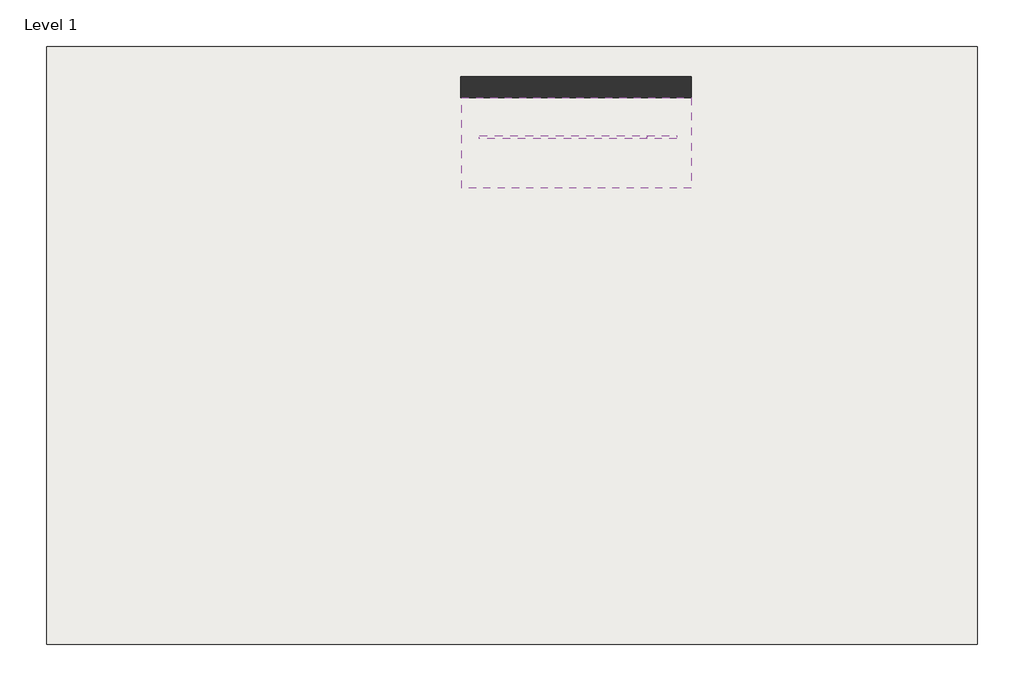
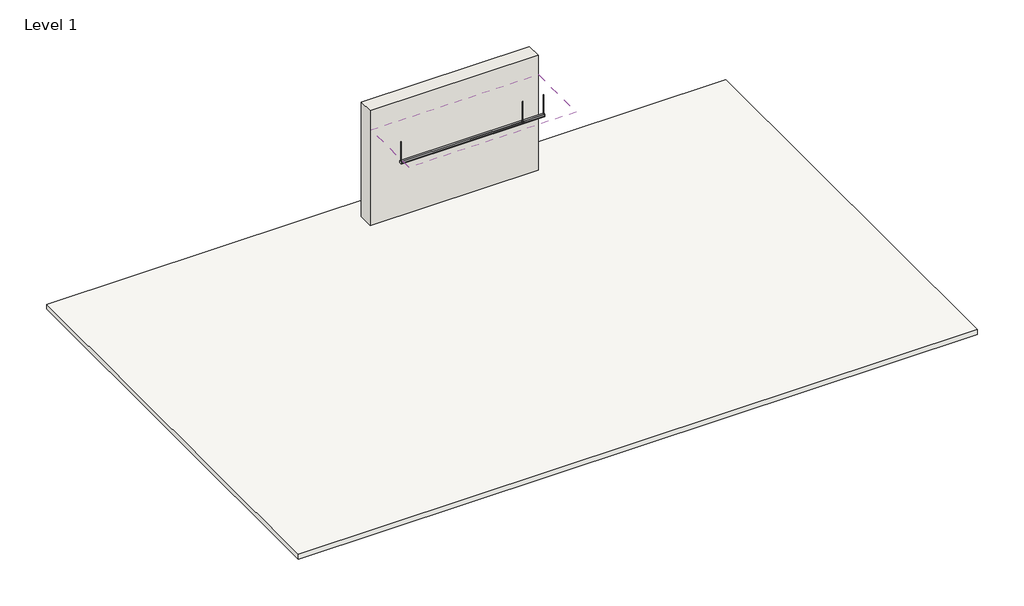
# One storey: 2 light fixtures, 1 covering, 1 slab, 1 wall.
"""IFC4 building model written with IfcOpenShell, lengths in millimetres."""

import ifcopenshell
import ifcopenshell.guid

model = None  # the IFC model being written
_history = None  # IfcOwnerHistory: only IFC2X3 demands one
_inside = {}  # id of a spatial element -> (the spatial element, [elements in it])
_under = {}  # id of a project, library or spatial element -> (it, [spatial elements below it])
_declared = {}  # id of a project -> (the project, [libraries it declares])
_typed = {}  # id of a type object -> (the type object, [elements of that type])
_made_of = {}  # id of a material, layer set ... -> (it, [elements and type objects made of it])


def new_model(schema):
    """Start an empty IFC model of exactly this schema.

    Asked for "IFC4X3", IfcOpenShell would pick the latest addendum, in which some entities
    have other attributes; the version numbers below select the first issue.
    IFC2X3 requires an IfcOwnerHistory on every rooted entity: one is made here for all.
    """
    global model, _history
    if schema == "IFC4X3":
        model = ifcopenshell.file(schema_version=(4, 3, 0, 0))
    else:
        model = ifcopenshell.file(schema=schema)
    _inside.clear()
    _under.clear()
    _declared.clear()
    _typed.clear()
    _made_of.clear()
    _history = None
    if model.schema == "IFC2X3":
        org = make("IfcOrganization", Name="unknown")
        user = make(
            "IfcPersonAndOrganization",
            ThePerson=make("IfcPerson", FamilyName="unknown"),
            TheOrganization=org,
        )
        app = make(
            "IfcApplication",
            ApplicationDeveloper=org,
            Version="unknown",
            ApplicationFullName="unknown",
            ApplicationIdentifier="unknown",
        )
        _history = make(
            "IfcOwnerHistory",
            OwningUser=user,
            OwningApplication=app,
            ChangeAction="ADDED",
            CreationDate=0,
        )
    return model


def make(cls, **values):
    """One entity of the class cls with the attributes given. An attribute that is None is left unset."""
    return model.create_entity(
        cls, **{name: value for name, value in values.items() if value is not None}
    )


def rooted(cls, **values):
    """An entity with a GlobalId (a new one), such as an element, a storey or a relation."""
    return make(cls, GlobalId=ifcopenshell.guid.new(), OwnerHistory=_history, **values)


def si_unit(unit_type, name, prefix=None):
    """IfcSIUnit, for example si_unit("LENGTHUNIT", "METRE", prefix="MILLI")."""
    return make("IfcSIUnit", UnitType=unit_type, Prefix=prefix, Name=name)


def assignment(units):
    """IfcUnitAssignment: the units of a project."""
    return None if units is None else make("IfcUnitAssignment", Units=units)


def point(xyz):
    """IfcCartesianPoint."""
    return None if xyz is None else make("IfcCartesianPoint", Coordinates=xyz)


def direction(xyz):
    """IfcDirection."""
    return None if xyz is None else make("IfcDirection", DirectionRatios=xyz)


def frame(location, z_axis=None, x_axis=None):
    """IfcAxis2Placement3D, a coordinate frame: its origin and axes. An axis left out is left unset."""
    return make(
        "IfcAxis2Placement3D",
        Location=point(location),
        Axis=direction(z_axis),
        RefDirection=direction(x_axis),
    )


def frame_2d(location, x_axis=None):
    """IfcAxis2Placement2D, a coordinate frame in the plane: its origin and x axis."""
    return make(
        "IfcAxis2Placement2D", Location=point(location), RefDirection=direction(x_axis)
    )


def origin():
    """The frame at (0, 0, 0) with its axes left unset."""
    return frame((0.0, 0.0, 0.0))


def origin_with_axes():
    """The frame at (0, 0, 0) with the z axis (0, 0, 1) and the x axis (1, 0, 0) written out."""
    return frame((0.0, 0.0, 0.0), z_axis=(0.0, 0.0, 1.0), x_axis=(1.0, 0.0, 0.0))


def place(relative_to, where):
    """IfcLocalPlacement: puts the frame where relative to a parent placement (None: the world)."""
    return make(
        "IfcLocalPlacement", PlacementRelTo=relative_to, RelativePlacement=where
    )


def context(
    kind, dimensions, precision=None, world=None, true_north=None, identifier=None
):
    """IfcGeometricRepresentationContext, for example the 3D "Model" context."""
    return make(
        "IfcGeometricRepresentationContext",
        ContextIdentifier=identifier,
        ContextType=kind,
        CoordinateSpaceDimension=dimensions,
        Precision=precision,
        WorldCoordinateSystem=world,
        TrueNorth=true_north,
    )


def project(units=None, contexts=None):
    """IfcProject with its units and contexts."""
    return rooted(
        "IfcProject",
        Name="project",
        RepresentationContexts=contexts,
        UnitsInContext=assignment(units),
    )


def spatial(cls, under=None, at=None, **own):
    """A site, building, storey or space (cls), placed at a placement, below another one or the project."""
    s = rooted(cls, ObjectPlacement=at, **own)
    if under is not None:
        _under.setdefault(under.id(), (under, []))[1].append(s)
    return s


def polyline(points):
    """IfcPolyline through the points."""
    return make("IfcPolyline", Points=[point(p) for p in points])


def circle_curve(where, radius):
    """IfcCircle in the frame where."""
    return make("IfcCircle", Position=where, Radius=radius)


def trimmed(basis, trim1, trim2, sense, master):
    """IfcTrimmedCurve: the piece of a basis curve between two trims."""
    return make(
        "IfcTrimmedCurve",
        BasisCurve=basis,
        Trim1=trim1,
        Trim2=trim2,
        SenseAgreement=sense,
        MasterRepresentation=master,
    )


def segment(curve, same_sense, transition):
    """IfcCompositeCurveSegment."""
    return make(
        "IfcCompositeCurveSegment",
        Transition=transition,
        SameSense=same_sense,
        ParentCurve=curve,
    )


def composite_curve(segments, self_intersect=None):
    """IfcCompositeCurve: segments joined end to end."""
    return make("IfcCompositeCurve", Segments=segments, SelfIntersect=self_intersect)


def outline(outer, holes=None, kind="AREA"):
    """IfcArbitraryClosedProfileDef: a profile drawn as a closed curve; with holes, ...WithVoids."""
    if holes is None:
        return make("IfcArbitraryClosedProfileDef", ProfileType=kind, OuterCurve=outer)
    return make(
        "IfcArbitraryProfileDefWithVoids",
        ProfileType=kind,
        OuterCurve=outer,
        InnerCurves=holes,
    )


def extrude(swept, where, along, depth):
    """IfcExtrudedAreaSolid: the profile swept, set in the frame where, extruded along a direction by depth."""
    return make(
        "IfcExtrudedAreaSolid",
        SweptArea=swept,
        Position=where,
        ExtrudedDirection=direction(along),
        Depth=depth,
    )


def shape(context_of_items, identifier, shape_type, items):
    """IfcShapeRepresentation: the items that make up one representation, for example the "Body"."""
    return make(
        "IfcShapeRepresentation",
        ContextOfItems=context_of_items,
        RepresentationIdentifier=identifier,
        RepresentationType=shape_type,
        Items=items,
    )


def source(mapping_origin, context_of_items, identifier, shape_type, items):
    """IfcRepresentationMap: a shape defined once, which mapped items show again and again."""
    return make(
        "IfcRepresentationMap",
        MappingOrigin=mapping_origin,
        MappedRepresentation=shape(context_of_items, identifier, shape_type, items),
    )


def transform(
    local_origin,
    x_axis=None,
    y_axis=None,
    z_axis=None,
    scale=None,
    scale2=None,
    scale3=None,
    uniform=True,
):
    """IfcCartesianTransformationOperator3D, or its non-uniform kind. x_axis, y_axis, z_axis: its Axis1, 2, 3."""
    if uniform:
        return make(
            "IfcCartesianTransformationOperator3D",
            Axis1=direction(x_axis),
            Axis2=direction(y_axis),
            LocalOrigin=point(local_origin),
            Scale=scale,
            Axis3=direction(z_axis),
        )
    return make(
        "IfcCartesianTransformationOperator3DnonUniform",
        Axis1=direction(x_axis),
        Axis2=direction(y_axis),
        LocalOrigin=point(local_origin),
        Scale=scale,
        Axis3=direction(z_axis),
        Scale2=scale2,
        Scale3=scale3,
    )


def mapped(mapping_source, mapping_target):
    """IfcMappedItem: shows the shape of a source again, moved by a transform."""
    return make(
        "IfcMappedItem", MappingSource=mapping_source, MappingTarget=mapping_target
    )


def made_of(thing, what):
    """Note that an element or type object is made of a material, layer set ...; save() writes the relation."""
    if what is not None:
        _made_of.setdefault(what.id(), (what, []))[1].append(thing)
    return thing


def element(
    cls,
    number,
    at=None,
    inside=None,
    cuts=None,
    type_object=None,
    material=None,
    context=None,
    identifier="Body",
    shape_type=None,
    held_by="IfcProductDefinitionShape",
    body=None,
    shapes=None,
    **own,
):
    """One element of the class cls, such as IfcWall. Its Tag is "e" and its number.

    at: its placement. inside: the storey or other place that contains it. cuts: it is an
    opening in that element (IfcRelVoidsElement). A single representation is given by context,
    identifier, shape_type and body (its items); several are given by shapes. held_by: the class
    of the entity that holds the representations. save() writes the other relations.
    """
    e = rooted(cls, Tag="e%d" % number, ObjectPlacement=at, **own)
    if body is not None:
        shapes = [shape(context, identifier, shape_type, body)]
    if shapes is not None:
        e.Representation = make(held_by, Representations=shapes)
    if inside is not None:
        _inside.setdefault(inside.id(), (inside, []))[1].append(e)
    if cuts is not None:
        rooted(
            "IfcRelVoidsElement", RelatingBuildingElement=cuts, RelatedOpeningElement=e
        )
    if type_object is not None:
        _typed.setdefault(type_object.id(), (type_object, []))[1].append(e)
    return made_of(e, material)


def aggregate(whole, parts):
    """IfcRelAggregates: a whole, such as a stair, and the parts it consists of."""
    return rooted("IfcRelAggregates", RelatingObject=whole, RelatedObjects=parts)


def save(model, path):
    """Write the relations noted so far, then the file.

    IfcRelAggregates (storeys below a building ...), IfcRelContainedInSpatialStructure (elements
    in a storey), IfcRelDefinesByType, IfcRelAssociatesMaterial and IfcRelDeclares: one each for
    every whole, place, type object, material and project.
    """
    for whole, parts in _under.values():
        aggregate(whole, parts)
    for where, things in _inside.values():
        rooted(
            "IfcRelContainedInSpatialStructure",
            RelatedElements=things,
            RelatingStructure=where,
        )
    for kind, things in _typed.values():
        rooted("IfcRelDefinesByType", RelatedObjects=things, RelatingType=kind)
    for what, things in _made_of.values():
        rooted("IfcRelAssociatesMaterial", RelatedObjects=things, RelatingMaterial=what)
    for by, libraries in _declared.values():
        rooted("IfcRelDeclares", RelatingContext=by, RelatedDefinitions=libraries)
    model.write(path)


def plane_surface(at):
    """IfcPlane: the flat surface through the origin of the frame at, square to its z axis."""
    return make("IfcPlane", Position=at)


def cylinder_surface(at, radius):
    """IfcCylindricalSurface: all points at the distance radius from the z axis of the frame at."""
    return make("IfcCylindricalSurface", Position=at, Radius=radius)


def advanced_brep(points, edges, surfaces, faces):
    """IfcAdvancedBrep: a solid bounded by faces that lie on surfaces and meet in shared edges.

    An edge is (start, end): straight between two places in points (the first is 0);
    or (start, end, curve); or (start, end, curve, False) where it runs against its curve.
    A face is (place in surfaces, loops), or (place, loops, False) where it looks against
    its surface's normal. A loop lists edges by number (the first is 1), with a minus sign
    where the edge is run from its end to its start. The first loop is the outer one.
    """
    corners = [point(p) for p in points]
    vertices = [make("IfcVertexPoint", VertexGeometry=c) for c in corners]
    made = []
    for start, end, *more in edges:
        made.append(
            make(
                "IfcEdgeCurve",
                EdgeStart=vertices[start],
                EdgeEnd=vertices[end],
                EdgeGeometry=more[0] if more else make("IfcPolyline", Points=[corners[start], corners[end]]),
                SameSense=more[1] if len(more) > 1 else True,
            )
        )
    hull = []
    for where, loops, *sense in faces:
        bounds = []
        for j, loop in enumerate(loops):
            ring = [make("IfcOrientedEdge", EdgeElement=made[abs(k) - 1], Orientation=k > 0) for k in loop]
            bounds.append(
                make(
                    "IfcFaceOuterBound" if j == 0 else "IfcFaceBound",
                    Bound=make("IfcEdgeLoop", EdgeList=ring),
                    Orientation=True,
                )
            )
        hull.append(make("IfcAdvancedFace", Bounds=bounds, FaceSurface=surfaces[where], SameSense=sense[0] if sense else True))
    return make("IfcAdvancedBrep", Outer=make("IfcClosedShell", CfsFaces=hull))


def lighting_pendant_axis_extend_2_4d92d093(model_context):
    return source(origin(), model_context, "Body", "SolidModel", [
        extrude(outline(polyline([(679.9357861, -1825.4726), (681.0375, -1826.3971437), (681.0375, -1843.786), (676.4532981, -1843.786), (676.4532981, -1833.118), (679.2595, -1833.118), (679.2595, -1826.26635), (678.46575, -1826.26635), (678.46575, -1825.4726), (679.9357861, -1825.4726)])), frame((0.0, -29.972, 0.0), z_axis=(0.0, 1.0, 0.0), x_axis=(0.0, 0.0, 1.0)), (0.0, 0.0, 1.0), 59.944),
        extrude(outline(polyline([(-1843.786, 32.004), (-1843.786, -32.004), (-1850.136, -32.004), (-1850.136, 32.004), (-1843.786, 32.004)])), frame((0.0, 0.0, 609.6), z_axis=(0.0, 0.0, 1.0), x_axis=(1.0, 0.0, 0.0)), (0.0, 0.0, 1.0), 71.4375),
        advanced_brep(
        [(1833.372, 0.0, 609.6), (1820.672, 0.0, 609.6), (1827.022, 0.0, 609.6), (1833.372, 0.0, 0.0), (1820.672, 0.0, 0.0), (1827.022, 0.0, 0.0)],
        [
            (0, 1, circle_curve(frame((1827.022, 0.0, 609.6), z_axis=(0.0, 0.0, 1.0), x_axis=(-1.0, 0.0, 0.0)), 6.35)),
            (1, 2),
            (2, 0),
            (1, 0, circle_curve(frame((1827.022, 0.0, 609.6), z_axis=(0.0, 0.0, 1.0), x_axis=(-1.0, 0.0, 0.0)), 6.35)),
            (3, 4, circle_curve(frame((1827.022, 0.0, 0.0), z_axis=(0.0, 0.0, 1.0), x_axis=(-1.0, 0.0, 0.0)), 6.35)),
            (4, 1),
            (0, 3),
            (4, 3, circle_curve(frame((1827.022, 0.0, 0.0), z_axis=(0.0, 0.0, 1.0), x_axis=(-1.0, 0.0, 0.0)), 6.35)),
            (5, 4),
            (3, 5),
        ],
        [
            plane_surface(frame((1827.022, 0.0, 609.6), z_axis=(0.0, 0.0, 1.0), x_axis=(-1.0, 0.0, 0.0))),
            cylinder_surface(frame((1827.022, 0.0, 2913.8581012), z_axis=(0.0, 0.0, -1.0), x_axis=(-1.0, 0.0, 0.0)), 6.35),
            plane_surface(frame((1827.022, 0.0, 0.0), z_axis=(0.0, 0.0, -1.0), x_axis=(-1.0, 0.0, 0.0))),
        ],
        [
            (0, [[1, 2, 3]]),
            (0, [[4, -3, -2]]),
            (1, [[5, 6, -1, 7]]),
            (1, [[8, -7, -4, -6]]),
            (2, [[9, -5, 10]]),
            (2, [[-10, -8, -9]]),
        ],
    ),
        advanced_brep(
        [(-1820.672, 0.0, 609.6), (-1833.372, 0.0, 609.6), (-1827.022, 0.0, 609.6), (-1820.672, 0.0, 0.0), (-1833.372, 0.0, 0.0), (-1827.022, 0.0, 0.0)],
        [
            (0, 1, circle_curve(frame((-1827.022, 0.0, 609.6), z_axis=(0.0, 0.0, 1.0), x_axis=(-1.0, 0.0, 0.0)), 6.35)),
            (1, 2),
            (2, 0),
            (1, 0, circle_curve(frame((-1827.022, 0.0, 609.6), z_axis=(0.0, 0.0, 1.0), x_axis=(-1.0, 0.0, 0.0)), 6.35)),
            (3, 4, circle_curve(frame((-1827.022, 0.0, 0.0), z_axis=(0.0, 0.0, 1.0), x_axis=(-1.0, 0.0, 0.0)), 6.35)),
            (4, 1),
            (0, 3),
            (4, 3, circle_curve(frame((-1827.022, 0.0, 0.0), z_axis=(0.0, 0.0, 1.0), x_axis=(-1.0, 0.0, 0.0)), 6.35)),
            (5, 4),
            (3, 5),
        ],
        [
            plane_surface(frame((-1827.022, 0.0, 609.6), z_axis=(0.0, 0.0, 1.0), x_axis=(-1.0, 0.0, 0.0))),
            cylinder_surface(frame((-1827.022, 0.0, 2913.8581012), z_axis=(0.0, 0.0, -1.0), x_axis=(-1.0, 0.0, 0.0)), 6.35),
            plane_surface(frame((-1827.022, 0.0, 0.0), z_axis=(0.0, 0.0, -1.0), x_axis=(-1.0, 0.0, 0.0))),
        ],
        [
            (0, [[1, 2, 3]]),
            (0, [[4, -3, -2]]),
            (1, [[5, 6, -1, 7]]),
            (1, [[8, -7, -4, -6]]),
            (2, [[9, -5, 10]]),
            (2, [[-10, -8, -9]]),
        ],
    ),
        extrude(outline(composite_curve([segment(polyline([(-24.1727262, 676.1479991), (-24.5114181, 669.6853737)]), True, "CONTINUOUS"), segment(trimmed(circle_curve(frame_2d((-27.2542, 666.6865)), 4.064), [point((-24.5114181, 669.6853737))], [point((-25.3818814, 663.0794903))], False, "CARTESIAN"), True, "CONTINUOUS"), segment(trimmed(circle_curve(frame_2d((-22.149344, 663.8683457)), 3.3274001), [point((-25.3818814, 663.0794903))], [point((-24.5665956, 661.5817575))], True, "CARTESIAN"), True, "CONTINUOUS"), segment(trimmed(circle_curve(frame_2d((-17.1303177, 668.6160708)), 10.2362001), [point((-24.5665956, 661.5817575))], [point((-23.2119066, 660.3823555))], True, "CARTESIAN"), True, "CONTINUOUS"), segment(trimmed(circle_curve(frame_2d((-23.7023573, 659.7183462)), 0.8255), [point((-23.2119066, 660.3823555))], [point((-24.192808, 659.0543369))], False, "CARTESIAN"), True, "CONTINUOUS"), segment(trimmed(circle_curve(frame_2d((-17.1303169, 668.6160717)), 11.8872013), [point((-24.192808, 659.0543369))], [point((-25.7659952, 660.4471908))], False, "CARTESIAN"), True, "CONTINUOUS"), segment(trimmed(circle_curve(frame_2d((-22.149344, 663.8683457)), 4.9784001), [point((-25.7659952, 660.4471908))], [point((-27.1108807, 664.27776))], False, "CARTESIAN"), True, "CONTINUOUS"), segment(trimmed(circle_curve(frame_2d((-27.2542, 666.6865)), 2.413), [point((-27.1108807, 664.27776))], [point((-25.4753941, 668.3169658))], True, "CARTESIAN"), True, "CONTINUOUS"), segment(trimmed(circle_curve(frame_2d((-23.6029669, 670.0332456)), 2.54), [point((-25.4753941, 668.3169658))], [point((-26.1394859, 670.1661789))], False, "CARTESIAN"), True, "CONTINUOUS"), segment(polyline([(-26.1394859, 670.1661789), (-25.825992, 676.1479991), (-28.829, 676.1479991), (-28.829, 678.053), (28.829, 678.053), (28.829, 676.1479991), (25.825992, 676.1479991), (26.1394859, 670.1661789)]), True, "CONTINUOUS"), segment(trimmed(circle_curve(frame_2d((23.6029669, 670.0332456)), 2.54), [point((26.1394859, 670.1661789))], [point((25.4753941, 668.3169658))], False, "CARTESIAN"), True, "CONTINUOUS"), segment(trimmed(circle_curve(frame_2d((27.2542, 666.6865)), 2.413), [point((25.4753941, 668.3169658))], [point((27.1108807, 664.27776))], True, "CARTESIAN"), True, "CONTINUOUS"), segment(trimmed(circle_curve(frame_2d((22.149344, 663.8683457)), 4.9784001), [point((27.1108807, 664.27776))], [point((25.7659952, 660.4471908))], False, "CARTESIAN"), True, "CONTINUOUS"), segment(trimmed(circle_curve(frame_2d((17.1303169, 668.6160717)), 11.8872013), [point((25.7659952, 660.4471908))], [point((24.192808, 659.0543369))], False, "CARTESIAN"), True, "CONTINUOUS"), segment(trimmed(circle_curve(frame_2d((23.7023573, 659.7183462)), 0.8255), [point((24.192808, 659.0543369))], [point((23.2119066, 660.3823555))], False, "CARTESIAN"), True, "CONTINUOUS"), segment(trimmed(circle_curve(frame_2d((17.1303177, 668.6160708)), 10.2362001), [point((23.2119066, 660.3823555))], [point((24.5665956, 661.5817575))], True, "CARTESIAN"), True, "CONTINUOUS"), segment(trimmed(circle_curve(frame_2d((22.149344, 663.8683457)), 3.3274001), [point((24.5665956, 661.5817575))], [point((25.3818814, 663.0794903))], True, "CARTESIAN"), True, "CONTINUOUS"), segment(trimmed(circle_curve(frame_2d((27.2542, 666.6865)), 4.064), [point((25.3818814, 663.0794903))], [point((24.5114181, 669.6853737))], False, "CARTESIAN"), True, "CONTINUOUS"), segment(polyline([(24.5114181, 669.6853737), (24.1727262, 676.1479991), (-24.1727262, 676.1479991)]), True, "CONTINUOUS")], self_intersect=False)), frame((-1828.8, 0.0, 0.0), z_axis=(1.0, 0.0, 0.0), x_axis=(0.0, 1.0, 0.0)), (0.0, 0.0, 1.0), 3657.6),
        extrude(outline(composite_curve([segment(polyline([(-29.972, 666.1277), (-29.972, 611.632), (29.972, 611.632), (29.972, 666.1277), (28.1325797, 666.1277)]), True, "CONTINUOUS"), segment(trimmed(circle_curve(frame_2d((26.6262297, 666.1277)), 1.5063501), [point((28.1325797, 666.1277))], [point((25.8730546, 664.8231626))], False, "CARTESIAN"), True, "CONTINUOUS"), segment(trimmed(circle_curve(frame_2d((27.0642121, 666.8863079)), 2.382315), [point((25.8730546, 664.8231626))], [point((24.6896516, 667.0783682))], False, "CARTESIAN"), True, "CONTINUOUS"), segment(polyline([(24.6896516, 667.0783682), (28.067, 669.9123), (28.067, 668.1597), (29.972, 668.1597), (29.972, 674.6875), (28.067, 674.6875), (28.067, 673.1635), (26.416, 673.2500252), (26.416, 675.9575), (29.972, 675.9575), (29.972, 681.0375), (32.004, 681.0375), (32.004, 609.6), (-32.004, 609.6), (-32.004, 681.0375), (-29.972, 681.0375), (-29.972, 675.9575), (-26.416, 675.9575), (-26.416, 673.2500252), (-28.067, 673.1635), (-28.067, 674.6875), (-29.972, 674.6875), (-29.972, 668.1597), (-28.067, 668.1597), (-28.067, 669.9123), (-24.6896516, 667.0783682)]), True, "CONTINUOUS"), segment(trimmed(circle_curve(frame_2d((-27.0642121, 666.8863079)), 2.382315), [point((-24.6896516, 667.0783682))], [point((-25.8730546, 664.8231626))], False, "CARTESIAN"), True, "CONTINUOUS"), segment(trimmed(circle_curve(frame_2d((-26.6262297, 666.1277)), 1.5063501), [point((-25.8730546, 664.8231626))], [point((-28.1325797, 666.1277))], False, "CARTESIAN"), True, "CONTINUOUS"), segment(polyline([(-28.1325797, 666.1277), (-29.972, 666.1277)]), True, "CONTINUOUS")], self_intersect=False)), frame((-1843.786, 0.0, 0.0), z_axis=(1.0, 0.0, 0.0), x_axis=(0.0, 1.0, 0.0)), (0.0, 0.0, 1.0), 3681.7427),
    ])


def lighting_pendant_axis_extend_2_409f2de3(model_context):
    return source(origin(), model_context, "Body", "SolidModel", [
        extrude(outline(polyline([(679.9357861, -301.8536), (681.0375, -302.7781437), (681.0375, -325.1352563), (679.9357861, -326.0598), (678.46575, -326.0598), (678.46575, -325.26605), (679.2595, -325.26605), (679.2595, -318.7954), (676.4532981, -318.7954), (676.4532981, -309.118), (679.2595, -309.118), (679.2595, -302.64735), (678.46575, -302.64735), (678.46575, -301.8536), (679.9357861, -301.8536)])), frame((0.0, -29.972, 0.0), z_axis=(0.0, 1.0, 0.0), x_axis=(0.0, 0.0, 1.0)), (0.0, 0.0, 1.0), 59.944),
        extrude(outline(polyline([(679.9357861, 301.4726), (678.46575, 301.4726), (678.46575, 302.26635), (679.2595, 302.26635), (679.2595, 309.118), (676.4532981, 309.118), (676.4532981, 319.786), (681.0375, 319.786), (681.0375, 302.3971437), (679.9357861, 301.4726)])), frame((0.0, -29.972, 0.0), z_axis=(0.0, 1.0, 0.0), x_axis=(0.0, 0.0, 1.0)), (0.0, 0.0, 1.0), 59.944),
        extrude(outline(polyline([(319.786, -32.004), (319.786, 32.004), (326.136, 32.004), (326.136, -32.004), (319.786, -32.004)])), frame((0.0, 0.0, 609.6), z_axis=(0.0, 0.0, 1.0), x_axis=(1.0, 0.0, 0.0)), (0.0, 0.0, 1.0), 71.4375),
        advanced_brep(
        [(309.372, 0.0, 609.6), (296.672, 0.0, 609.6), (303.022, 0.0, 609.6), (309.372, 0.0, 0.0), (296.672, 0.0, 0.0), (303.022, 0.0, 0.0)],
        [
            (0, 1, circle_curve(frame((303.022, 0.0, 609.6), z_axis=(0.0, 0.0, 1.0), x_axis=(-1.0, 0.0, 0.0)), 6.35)),
            (1, 2),
            (2, 0),
            (1, 0, circle_curve(frame((303.022, 0.0, 609.6), z_axis=(0.0, 0.0, 1.0), x_axis=(-1.0, 0.0, 0.0)), 6.35)),
            (3, 4, circle_curve(frame((303.022, 0.0, 0.0), z_axis=(0.0, 0.0, 1.0), x_axis=(-1.0, 0.0, 0.0)), 6.35)),
            (4, 1),
            (0, 3),
            (4, 3, circle_curve(frame((303.022, 0.0, 0.0), z_axis=(0.0, 0.0, 1.0), x_axis=(-1.0, 0.0, 0.0)), 6.35)),
            (5, 4),
            (3, 5),
        ],
        [
            plane_surface(frame((303.022, 0.0, 609.6), z_axis=(0.0, 0.0, 1.0), x_axis=(-1.0, 0.0, 0.0))),
            cylinder_surface(frame((303.022, 0.0, 2913.8581012), z_axis=(0.0, 0.0, -1.0), x_axis=(-1.0, 0.0, 0.0)), 6.35),
            plane_surface(frame((303.022, 0.0, 0.0), z_axis=(0.0, 0.0, -1.0), x_axis=(-1.0, 0.0, 0.0))),
        ],
        [
            (0, [[1, 2, 3]]),
            (0, [[4, -3, -2]]),
            (1, [[5, 6, -1, 7]]),
            (1, [[8, -7, -4, -6]]),
            (2, [[9, -5, 10]]),
            (2, [[-10, -8, -9]]),
        ],
    ),
        extrude(outline(composite_curve([segment(polyline([(-24.1727262, 676.1479991), (-24.5114181, 669.6853737)]), True, "CONTINUOUS"), segment(trimmed(circle_curve(frame_2d((-27.2542, 666.6865)), 4.064), [point((-24.5114181, 669.6853737))], [point((-25.3818814, 663.0794903))], False, "CARTESIAN"), True, "CONTINUOUS"), segment(trimmed(circle_curve(frame_2d((-22.149344, 663.8683457)), 3.3274001), [point((-25.3818814, 663.0794903))], [point((-24.5665956, 661.5817575))], True, "CARTESIAN"), True, "CONTINUOUS"), segment(trimmed(circle_curve(frame_2d((-17.1303177, 668.6160708)), 10.2362001), [point((-24.5665956, 661.5817575))], [point((-23.2119066, 660.3823555))], True, "CARTESIAN"), True, "CONTINUOUS"), segment(trimmed(circle_curve(frame_2d((-23.7023573, 659.7183462)), 0.8255), [point((-23.2119066, 660.3823555))], [point((-24.192808, 659.0543369))], False, "CARTESIAN"), True, "CONTINUOUS"), segment(trimmed(circle_curve(frame_2d((-17.1303169, 668.6160717)), 11.8872013), [point((-24.192808, 659.0543369))], [point((-25.7659952, 660.4471908))], False, "CARTESIAN"), True, "CONTINUOUS"), segment(trimmed(circle_curve(frame_2d((-22.149344, 663.8683457)), 4.9784001), [point((-25.7659952, 660.4471908))], [point((-27.1108807, 664.27776))], False, "CARTESIAN"), True, "CONTINUOUS"), segment(trimmed(circle_curve(frame_2d((-27.2542, 666.6865)), 2.413), [point((-27.1108807, 664.27776))], [point((-25.4753941, 668.3169658))], True, "CARTESIAN"), True, "CONTINUOUS"), segment(trimmed(circle_curve(frame_2d((-23.6029669, 670.0332456)), 2.54), [point((-25.4753941, 668.3169658))], [point((-26.1394859, 670.1661789))], False, "CARTESIAN"), True, "CONTINUOUS"), segment(polyline([(-26.1394859, 670.1661789), (-25.825992, 676.1479991), (-28.829, 676.1479991), (-28.829, 678.053), (28.829, 678.053), (28.829, 676.1479991), (25.825992, 676.1479991), (26.1394859, 670.1661789)]), True, "CONTINUOUS"), segment(trimmed(circle_curve(frame_2d((23.6029669, 670.0332456)), 2.54), [point((26.1394859, 670.1661789))], [point((25.4753941, 668.3169658))], False, "CARTESIAN"), True, "CONTINUOUS"), segment(trimmed(circle_curve(frame_2d((27.2542, 666.6865)), 2.413), [point((25.4753941, 668.3169658))], [point((27.1108807, 664.27776))], True, "CARTESIAN"), True, "CONTINUOUS"), segment(trimmed(circle_curve(frame_2d((22.149344, 663.8683457)), 4.9784001), [point((27.1108807, 664.27776))], [point((25.7659952, 660.4471908))], False, "CARTESIAN"), True, "CONTINUOUS"), segment(trimmed(circle_curve(frame_2d((17.1303169, 668.6160717)), 11.8872013), [point((25.7659952, 660.4471908))], [point((24.192808, 659.0543369))], False, "CARTESIAN"), True, "CONTINUOUS"), segment(trimmed(circle_curve(frame_2d((23.7023573, 659.7183462)), 0.8255), [point((24.192808, 659.0543369))], [point((23.2119066, 660.3823555))], False, "CARTESIAN"), True, "CONTINUOUS"), segment(trimmed(circle_curve(frame_2d((17.1303177, 668.6160708)), 10.2362001), [point((23.2119066, 660.3823555))], [point((24.5665956, 661.5817575))], True, "CARTESIAN"), True, "CONTINUOUS"), segment(trimmed(circle_curve(frame_2d((22.149344, 663.8683457)), 3.3274001), [point((24.5665956, 661.5817575))], [point((25.3818814, 663.0794903))], True, "CARTESIAN"), True, "CONTINUOUS"), segment(trimmed(circle_curve(frame_2d((27.2542, 666.6865)), 4.064), [point((25.3818814, 663.0794903))], [point((24.5114181, 669.6853737))], False, "CARTESIAN"), True, "CONTINUOUS"), segment(polyline([(24.5114181, 669.6853737), (24.1727262, 676.1479991), (-24.1727262, 676.1479991)]), True, "CONTINUOUS")], self_intersect=False)), frame((-304.8, 0.0, 0.0), z_axis=(1.0, 0.0, 0.0), x_axis=(0.0, 1.0, 0.0)), (0.0, 0.0, 1.0), 609.6),
        extrude(outline(composite_curve([segment(polyline([(-29.972, 666.1277), (-29.972, 611.632), (29.972, 611.632), (29.972, 666.1277), (28.1325797, 666.1277)]), True, "CONTINUOUS"), segment(trimmed(circle_curve(frame_2d((26.6262297, 666.1277)), 1.5063501), [point((28.1325797, 666.1277))], [point((25.8730546, 664.8231626))], False, "CARTESIAN"), True, "CONTINUOUS"), segment(trimmed(circle_curve(frame_2d((27.0642121, 666.8863079)), 2.382315), [point((25.8730546, 664.8231626))], [point((24.6896516, 667.0783682))], False, "CARTESIAN"), True, "CONTINUOUS"), segment(polyline([(24.6896516, 667.0783682), (28.067, 669.9123), (28.067, 668.1597), (29.972, 668.1597), (29.972, 674.6875), (28.067, 674.6875), (28.067, 673.1635), (26.416, 673.2500252), (26.416, 675.9575), (29.972, 675.9575), (29.972, 681.0375), (32.004, 681.0375), (32.004, 609.6), (-32.004, 609.6), (-32.004, 681.0375), (-29.972, 681.0375), (-29.972, 675.9575), (-26.416, 675.9575), (-26.416, 673.2500252), (-28.067, 673.1635), (-28.067, 674.6875), (-29.972, 674.6875), (-29.972, 668.1597), (-28.067, 668.1597), (-28.067, 669.9123), (-24.6896516, 667.0783682)]), True, "CONTINUOUS"), segment(trimmed(circle_curve(frame_2d((-27.0642121, 666.8863079)), 2.382315), [point((-24.6896516, 667.0783682))], [point((-25.8730546, 664.8231626))], False, "CARTESIAN"), True, "CONTINUOUS"), segment(trimmed(circle_curve(frame_2d((-26.6262297, 666.1277)), 1.5063501), [point((-25.8730546, 664.8231626))], [point((-28.1325797, 666.1277))], False, "CARTESIAN"), True, "CONTINUOUS"), segment(polyline([(-28.1325797, 666.1277), (-29.972, 666.1277)]), True, "CONTINUOUS")], self_intersect=False)), frame((-313.9567, 0.0, 0.0), z_axis=(1.0, 0.0, 0.0), x_axis=(0.0, 1.0, 0.0)), (0.0, 0.0, 1.0), 633.7427),
    ])


model = new_model("IFC4")

# Units and contexts
model_context = context("Model", 3, world=origin())
ifc_project = project(units=[si_unit("LENGTHUNIT", "METRE", prefix="MILLI")], contexts=[model_context])

# Site, building, storey
site = spatial("IfcSite", under=ifc_project)
building = spatial("IfcBuilding", under=site)
storey = spatial("IfcBuildingStorey", under=building, Name="Level 1", Elevation=0.0)

# Covering
placement = place(None, origin())
element("IfcCovering", 1, ObjectType="Plain", at=placement, inside=storey, context=model_context, shape_type="SweptSolid", body=[
    extrude(outline(polyline([(-3780.5571266, 5992.4697047), (1248.6428734, 5992.4697047), (1248.6428734, 4011.2697047), (-3780.5571266, 4011.2697047), (-3780.5571266, 5992.4697047)])), frame((0.0, 0.0, 3048.0), z_axis=(0.0, 0.0, 1.0), x_axis=(1.0, 0.0, 0.0)), (0.0, 0.0, 1.0), 12.7),
])

# Light fixtures
lighting_pendant_axis_extend_2_shape = lighting_pendant_axis_extend_2_4d92d093(model_context)
element("IfcLightFixture", 2, ObjectType="Lighting-Pendant-Axis-Extend_2 : EX2PD-900-80-35-SO-4", at=placement, inside=storey, context=model_context, shape_type="MappedRepresentation", body=[
    mapped(lighting_pendant_axis_extend_2_shape, transform((-1545.3571266, 5128.8697047, 3048.0), x_axis=(1.0, 0.0, 0.0), y_axis=(0.0, -1.0, 0.0), z_axis=(0.0, 0.0, -1.0))),
])
lighting_pendant_axis_extend_2_2_shape = lighting_pendant_axis_extend_2_409f2de3(model_context)
element("IfcLightFixture", 3, ObjectType="Lighting-Pendant-Axis-Extend_2 : EX2PD-900-80-35-SO-4", at=placement, inside=storey, context=model_context, shape_type="MappedRepresentation", body=[
    mapped(lighting_pendant_axis_extend_2_2_shape, transform((606.5562734, 5128.8697047, 3048.0), x_axis=(1.0, 0.0, 0.0), y_axis=(0.0, -1.0, 0.0), z_axis=(0.0, 0.0, -1.0))),
])

# Slab
element("IfcSlab", 4, ObjectType="Generic 150mm", at=placement, inside=storey, context=model_context, shape_type="SweptSolid", body=[
    extrude(outline(polyline([(7531.7635568, 7118.573374), (7531.7635568, -6007.2851693), (-12889.8364432, -6007.2851693), (-12889.8364432, 7118.573374), (7531.7635568, 7118.573374)])), frame((0.0, 0.0, -150.0), z_axis=(0.0, 0.0, 1.0), x_axis=(1.0, 0.0, 0.0)), (0.0, 0.0, 1.0), 150.0),
])

# Wall
element("IfcWall", 5, ObjectType="Exterior - Block on Mtl. Stud", at=placement, inside=storey, context=model_context, shape_type="SweptSolid", body=[
    extrude(outline(polyline([(1248.6428734, 5992.4697047), (-3805.9571266, 5992.4697047), (-3805.9571266, 6452.4697047), (1248.6428734, 6452.4697047), (1248.6428734, 5992.4697047)])), origin_with_axes(), (0.0, 0.0, 1.0), 3657.6),
])

save(model, "model.ifc")
